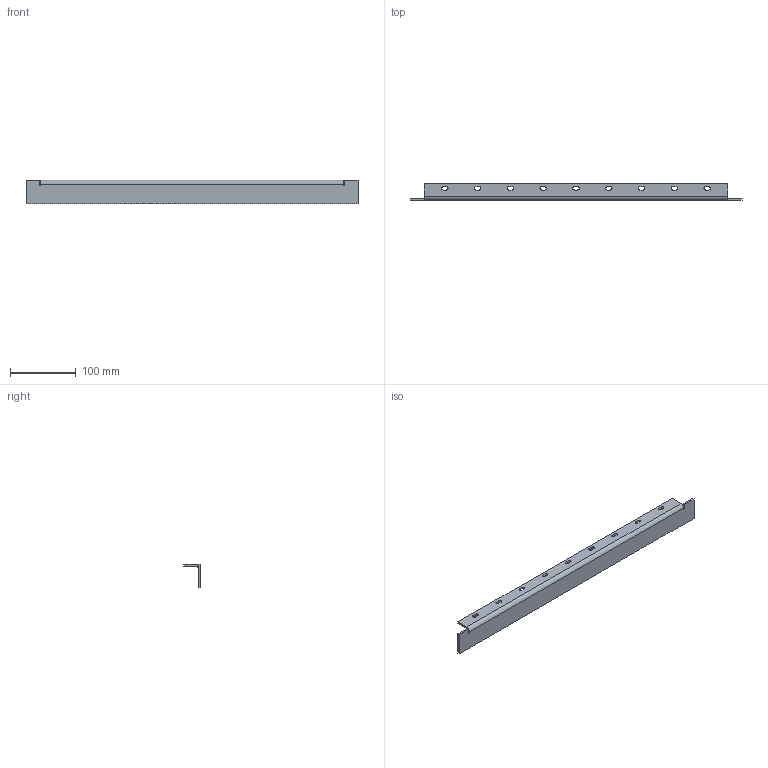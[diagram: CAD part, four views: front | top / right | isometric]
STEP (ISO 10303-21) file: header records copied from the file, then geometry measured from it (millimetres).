
FILE_DESCRIPTION (( 'STEP AP203' ), '1' );
FILE_NAME ('ORW-72.24.20.10.004 赶鎀鍧.STEP', '2025-10-13T13:18:56', ( '燴僽樥' ), ( '' ), 'SwSTEP 2.0', 'SolidWorks 2025', '' );
FILE_SCHEMA (( 'CONFIG_CONTROL_DESIGN' ));
Length unit declared in the file: millimetre
Products named in the file (1): ORW-72.24.20.10.004 Уголок
Bounding box: 506 x 25 x 36 mm (x, y, z)
Volume: 81185.9 mm3; surface area: 58286.5 mm2
Topology: 1 solids, 1 shells, 54 faces, 156 edges, 104 vertices
Faces by surface type: plane 34, cylinder 20
Entity records: 1891 total; most frequent: CARTESIAN_POINT 315, ORIENTED_EDGE 312, DIRECTION 306, EDGE_CURVE 156, VECTOR 116, LINE 116, VERTEX_POINT 104, AXIS2_PLACEMENT_3D 95
